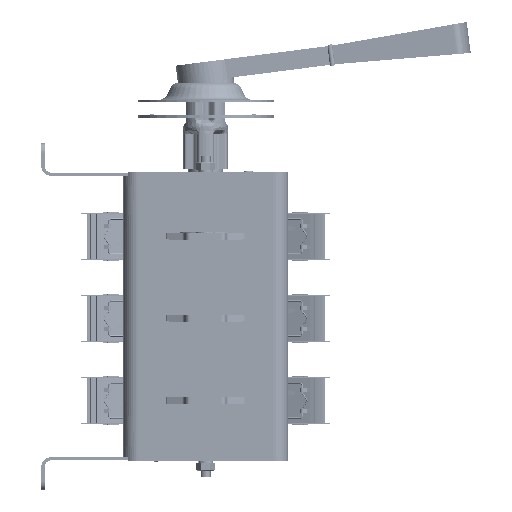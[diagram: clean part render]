
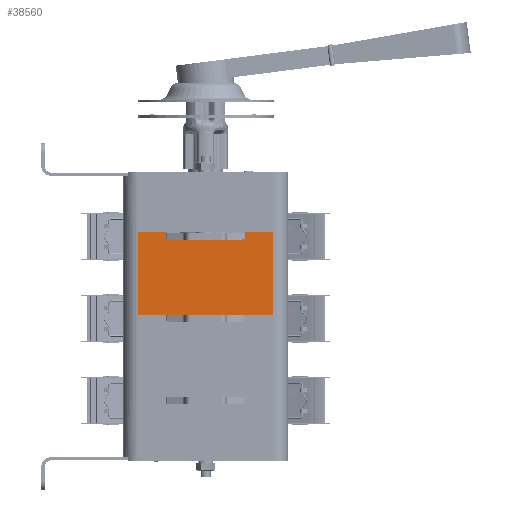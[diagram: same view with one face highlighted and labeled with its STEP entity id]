
A CAD part, front view. The second image highlights one B-rep face of the part: STEP entity #38560.
In plain terms, the highlighted planar face has unit normal (0, -1, 0).
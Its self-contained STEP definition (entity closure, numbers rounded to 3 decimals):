
#5507 = EDGE_CURVE ( 'NONE', #23068, #5521, #72508, .T. ) ;
#5521 = VERTEX_POINT ( 'NONE', #68799 ) ;
#5838 = VECTOR ( 'NONE', #72608, 1000. ) ;
#6776 = VERTEX_POINT ( 'NONE', #73465 ) ;
#8573 = LINE ( 'NONE', #80452, #114040 ) ;
#9605 = ORIENTED_EDGE ( 'NONE', *, *, #10599, .F. ) ;
#10495 = VERTEX_POINT ( 'NONE', #71754 ) ;
#10599 = EDGE_CURVE ( 'NONE', #21783, #116054, #52406, .T. ) ;
#11128 = ORIENTED_EDGE ( 'NONE', *, *, #49047, .T. ) ;
#11899 = LINE ( 'NONE', #62456, #117385 ) ;
#12996 = DIRECTION ( 'NONE',  ( 1., 0., 0. ) ) ;
#13864 = FACE_OUTER_BOUND ( 'NONE', #116346, .T. ) ;
#14888 = CARTESIAN_POINT ( 'NONE',  ( 41., -48., 3. ) ) ;
#15031 = DIRECTION ( 'NONE',  ( 0., 0., -1. ) ) ;
#21038 = DIRECTION ( 'NONE',  ( 0., 0., -1. ) ) ;
#21334 = LINE ( 'NONE', #105684, #88042 ) ;
#21783 = VERTEX_POINT ( 'NONE', #78253 ) ;
#23036 = LINE ( 'NONE', #74414, #69603 ) ;
#23068 = VERTEX_POINT ( 'NONE', #109982 ) ;
#24446 = VECTOR ( 'NONE', #108262, 1000. ) ;
#24957 = DIRECTION ( 'NONE',  ( 1., 0., 0. ) ) ;
#32745 = LINE ( 'NONE', #104161, #122656 ) ;
#33049 = ORIENTED_EDGE ( 'NONE', *, *, #73441, .F. ) ;
#34180 = PLANE ( 'NONE',  #61857 ) ;
#38560 = ADVANCED_FACE ( 'NONE', ( #13864 ), #34180, .F. ) ;
#41712 = ORIENTED_EDGE ( 'NONE', *, *, #106735, .T. ) ;
#44828 = DIRECTION ( 'NONE',  ( 0., 0., -1. ) ) ;
#45368 = CARTESIAN_POINT ( 'NONE',  ( 41., -48., -22. ) ) ;
#45774 = ORIENTED_EDGE ( 'NONE', *, *, #5507, .F. ) ;
#49047 = EDGE_CURVE ( 'NONE', #21783, #74166, #21334, .T. ) ;
#52406 = LINE ( 'NONE', #80869, #5838 ) ;
#54555 = DIRECTION ( 'NONE',  ( 0., 0., 1. ) ) ;
#55064 = CARTESIAN_POINT ( 'NONE',  ( 41., -48., 28.2 ) ) ;
#61857 = AXIS2_PLACEMENT_3D ( 'NONE', #84465, #103141, #54555 ) ;
#62115 = EDGE_CURVE ( 'NONE', #116054, #117215, #95583, .T. ) ;
#62456 = CARTESIAN_POINT ( 'NONE',  ( -41., -48., 24.2 ) ) ;
#64638 = ORIENTED_EDGE ( 'NONE', *, *, #76205, .F. ) ;
#68799 = CARTESIAN_POINT ( 'NONE',  ( -23.8, -48., 24.2 ) ) ;
#69212 = VECTOR ( 'NONE', #44828, 1000. ) ;
#69603 = VECTOR ( 'NONE', #24957, 1000. ) ;
#71754 = CARTESIAN_POINT ( 'NONE',  ( -41., -48., -22. ) ) ;
#72508 = LINE ( 'NONE', #118616, #24446 ) ;
#72608 = DIRECTION ( 'NONE',  ( 1., 0., 0. ) ) ;
#73441 = EDGE_CURVE ( 'NONE', #117215, #10495, #32745, .T. ) ;
#73465 = CARTESIAN_POINT ( 'NONE',  ( -41., -48., 28.2 ) ) ;
#74166 = VERTEX_POINT ( 'NONE', #109789 ) ;
#74414 = CARTESIAN_POINT ( 'NONE',  ( -41., -48., 28.2 ) ) ;
#76205 = EDGE_CURVE ( 'NONE', #6776, #23068, #23036, .T. ) ;
#78253 = CARTESIAN_POINT ( 'NONE',  ( 23.8, -48., 28.2 ) ) ;
#80452 = CARTESIAN_POINT ( 'NONE',  ( -41., -48., 3. ) ) ;
#80869 = CARTESIAN_POINT ( 'NONE',  ( 23.8, -48., 28.2 ) ) ;
#84465 = CARTESIAN_POINT ( 'NONE',  ( -41., -48., 3. ) ) ;
#88042 = VECTOR ( 'NONE', #15031, 1000. ) ;
#92476 = DIRECTION ( 'NONE',  ( -1., 0., 0. ) ) ;
#95583 = LINE ( 'NONE', #14888, #69212 ) ;
#96933 = ORIENTED_EDGE ( 'NONE', *, *, #114969, .F. ) ;
#103141 = DIRECTION ( 'NONE',  ( 0., 1., 0. ) ) ;
#104161 = CARTESIAN_POINT ( 'NONE',  ( -41., -48., -22. ) ) ;
#105684 = CARTESIAN_POINT ( 'NONE',  ( 23.8, -48., 28.2 ) ) ;
#105958 = ORIENTED_EDGE ( 'NONE', *, *, #62115, .F. ) ;
#106735 = EDGE_CURVE ( 'NONE', #6776, #10495, #8573, .T. ) ;
#108262 = DIRECTION ( 'NONE',  ( 0., 0., -1. ) ) ;
#109789 = CARTESIAN_POINT ( 'NONE',  ( 23.8, -48., 24.2 ) ) ;
#109982 = CARTESIAN_POINT ( 'NONE',  ( -23.8, -48., 28.2 ) ) ;
#114040 = VECTOR ( 'NONE', #21038, 1000. ) ;
#114969 = EDGE_CURVE ( 'NONE', #5521, #74166, #11899, .T. ) ;
#116054 = VERTEX_POINT ( 'NONE', #55064 ) ;
#116346 = EDGE_LOOP ( 'NONE', ( #41712, #33049, #105958, #9605, #11128, #96933, #45774, #64638 ) ) ;
#117215 = VERTEX_POINT ( 'NONE', #45368 ) ;
#117385 = VECTOR ( 'NONE', #12996, 1000. ) ;
#118616 = CARTESIAN_POINT ( 'NONE',  ( -23.8, -48., 28.2 ) ) ;
#122656 = VECTOR ( 'NONE', #92476, 1000. ) ;
